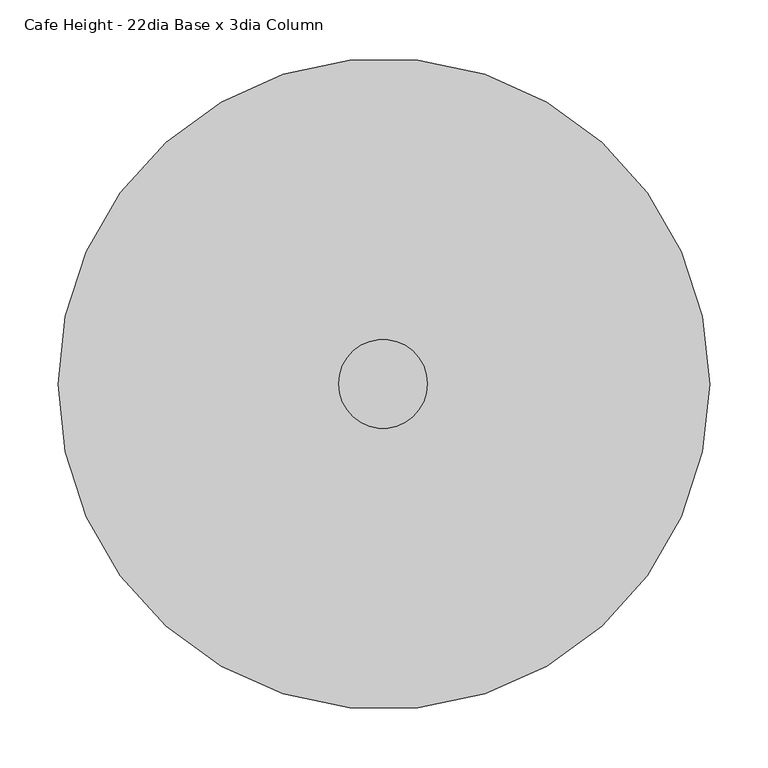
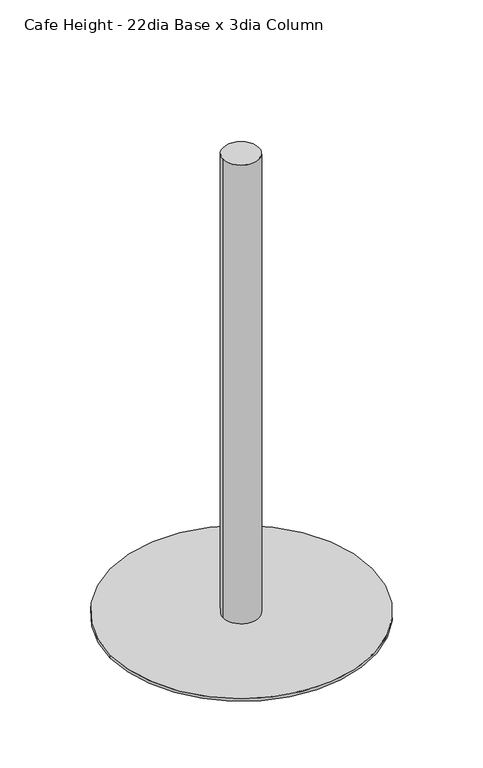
"""IFC4 building model written with IfcOpenShell, lengths in millimetres: furniture geometry, Steelcase - Groupwork - Table - Base : Cafe Height - 22dia Base x 3dia Column."""

from ifc_helpers import new_model, si_unit, point, frame, frame_2d, origin, origin_with_axes, origin_2d, place, context, project, spatial, circle_curve, trimmed, segment, composite_curve, outline, extrude, source, transform, mapped, element, save


def cafe_height_22dia_base_x_3dia_column_649dd6fb(model_context):
    return source(origin(), model_context, "Body", "SweptSolid", [
        extrude(outline(composite_curve([segment(trimmed(circle_curve(frame_2d((-0.79375, 0.0)), 38.1), [point((-38.89375, 0.0))], [point((37.30625, 0.0))], False, "CARTESIAN"), True, "CONTINUOUS"), segment(trimmed(circle_curve(frame_2d((-0.79375, 0.0)), 38.1), [point((37.30625, 0.0))], [point((-38.89375, 0.0))], False, "CARTESIAN"), True, "CONTINUOUS")], self_intersect=False)), frame((0.0, 0.0, 6.35), z_axis=(0.0, 0.0, 1.0), x_axis=(1.0, 0.0, 0.0)), (0.0, 0.0, 1.0), 1035.05),
        extrude(outline(composite_curve([segment(trimmed(circle_curve(origin_2d(), 279.4), [point((-279.4, 0.0))], [point((279.4, 0.0))], False, "CARTESIAN"), True, "CONTINUOUS"), segment(trimmed(circle_curve(origin_2d(), 279.4), [point((279.4, 0.0))], [point((-279.4, 0.0))], False, "CARTESIAN"), True, "CONTINUOUS")], self_intersect=False)), origin_with_axes(), (0.0, 0.0, 1.0), 6.35),
    ])


if __name__ == "__main__":
    model = new_model("IFC4")
    model_context = context("Model", 3, world=origin())
    ifc_project = project(units=[si_unit("LENGTHUNIT", "METRE", prefix="MILLI")], contexts=[model_context])
    site = spatial("IfcSite", under=ifc_project)
    building = spatial("IfcBuilding", under=site)
    placement = place(None, origin())
    cafe_height_22dia_base_x_3dia_column_shape = cafe_height_22dia_base_x_3dia_column_649dd6fb(model_context)
    element("IfcFurniture", 1, ObjectType="Steelcase - Groupwork - Table - Base : Cafe Height - 22dia Base x 3dia Column", at=placement, inside=building, context=model_context, shape_type="MappedRepresentation", body=[
        mapped(cafe_height_22dia_base_x_3dia_column_shape, transform((0.0, 0.0, 0.0), x_axis=(1.0, 0.0, 0.0), y_axis=(0.0, 1.0, 0.0), z_axis=(0.0, 0.0, 1.0))),
    ])
    save(model, "model.ifc")
